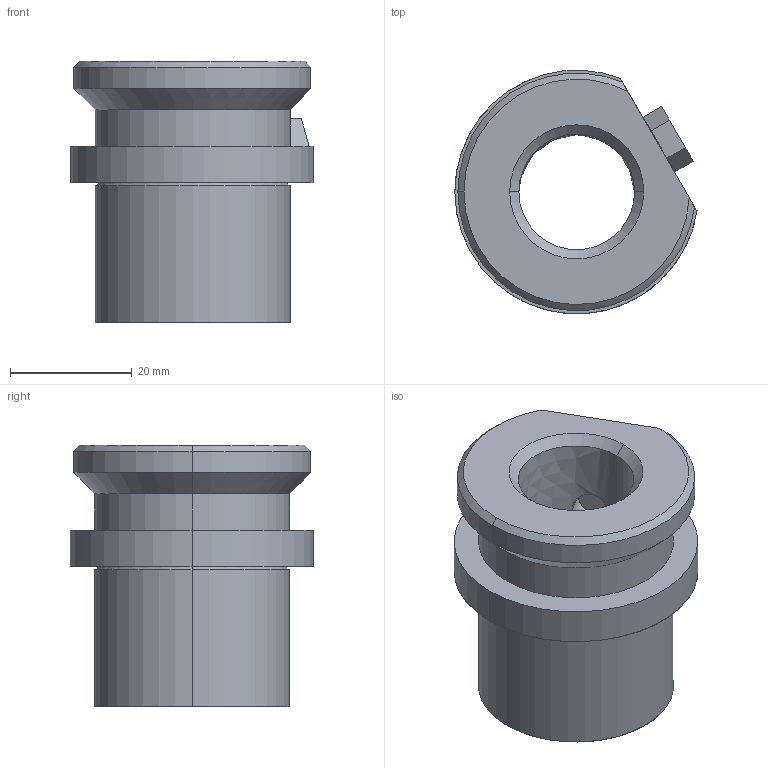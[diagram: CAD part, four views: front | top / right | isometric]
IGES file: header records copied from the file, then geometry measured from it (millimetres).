
Start section: START RECORD GO HERE.
Global section: file name: 741-19.igs; native system: DASSAULT SYSTEMES CATIA V5 R20 - www.3ds.com; preprocessor: CATIA Version 5 Release 20 ; author: Utente; organization: NB04-ASUS; date: 20210120.194729; units: millimetre
Bounding box: 39.77 x 39.97 x 43 mm (x, y, z)
Surface area: 9616.6 mm2 (no closed solid volume)
Topology: 0 solids, 0 shells, 45 faces, 215 edges, 214 vertices
Faces by surface type: revolution 29, plane 16
